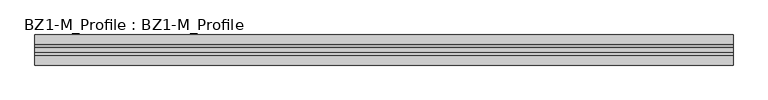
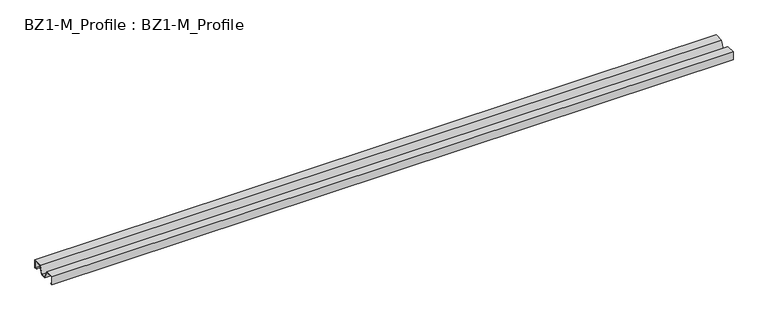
"""IFC4 building model written with IfcOpenShell, lengths in millimetres: beam geometry, BZ1-M_Profile : BZ1-M_Profile."""

from ifc_helpers import new_model, si_unit, frame, origin, place, context, project, spatial, polyline, outline, extrude, source, transform, mapped, element, save


def bz1_m_profile_bz1_m_profile_37837105(model_context):
    return source(origin(), model_context, "Body", "SweptSolid", [
        extrude(outline(polyline([(45.0, 25.0), (45.0, 0.0), (39.0, 0.0), (39.0, 1.0), (44.0, 1.0), (44.0, 24.0), (18.3051526, 24.0), (8.117757, 0.0), (-8.117757, 0.0), (-18.3051526, 24.0), (-44.0, 24.0), (-44.0, 1.0), (-39.0, 1.0), (-39.0, 0.0), (-45.0, 0.0), (-45.0, 25.0), (-17.643267, 25.0), (-7.4558714, 1.0), (7.4558714, 1.0), (17.643267, 25.0), (45.0, 25.0)])), frame((-1041.5, 0.0, 0.0), z_axis=(1.0, 0.0, 0.0), x_axis=(0.0, 1.0, 0.0)), (0.0, 0.0, 1.0), 2083.0),
    ])


if __name__ == "__main__":
    model = new_model("IFC4")
    model_context = context("Model", 3, world=origin())
    ifc_project = project(units=[si_unit("LENGTHUNIT", "METRE", prefix="MILLI")], contexts=[model_context])
    site = spatial("IfcSite", under=ifc_project)
    building = spatial("IfcBuilding", under=site)
    placement = place(None, origin())
    bz1_m_profile_bz1_m_profile_shape = bz1_m_profile_bz1_m_profile_37837105(model_context)
    element("IfcBeam", 1, ObjectType="BZ1-M_Profile : BZ1-M_Profile", at=placement, inside=building, context=model_context, shape_type="MappedRepresentation", body=[
        mapped(bz1_m_profile_bz1_m_profile_shape, transform((0.0, 0.0, 0.0), x_axis=(1.0, 0.0, 0.0), y_axis=(0.0, 1.0, 0.0), z_axis=(0.0, 0.0, 1.0))),
    ])
    save(model, "model.ifc")
